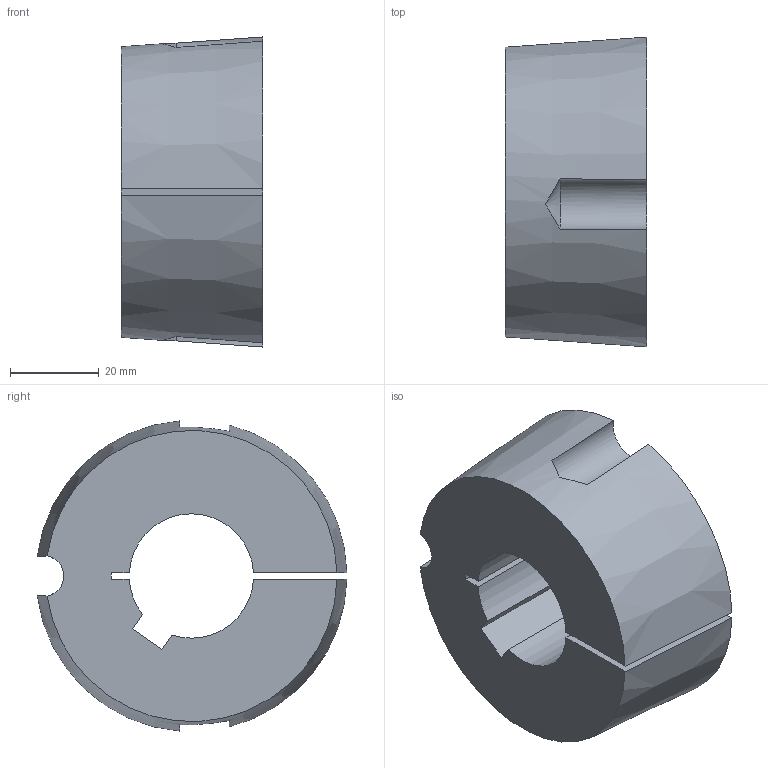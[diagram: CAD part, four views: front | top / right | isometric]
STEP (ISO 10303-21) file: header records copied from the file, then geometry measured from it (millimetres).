
FILE_DESCRIPTION( ( 'STEP AP203' ), '1' );
FILE_NAME( 'D:/export/antriebselemente/spannbuchsen_und_spannsaetze/taper-spannbuchsen_1008_bis_5050/taper-spannbuchsen_62250528Isometric_120.stp', '2018-12-11T11:11:12', ( '' ), ( '' ), ' ', 'PARTsolutions', ' ' );
FILE_SCHEMA( ( 'CONFIG_CONTROL_DESIGN' ) );
Length unit declared in the file: millimetre
Products named in the file (1): _taper-spannbuchsen_62250528
Bounding box: 31.8 x 69.72 x 69.81 mm (x, y, z)
Volume: 89566.6 mm3; surface area: 17454.9 mm2
Topology: 1 solids, 1 shells, 20 faces, 54 edges, 36 vertices
Faces by surface type: plane 10, cylinder 6, cone 4
Entity records: 752 total; most frequent: CARTESIAN_POINT 203, ORIENTED_EDGE 108, DIRECTION 104, EDGE_CURVE 54, AXIS2_PLACEMENT_3D 39, VERTEX_POINT 36, LINE 26, VECTOR 26
